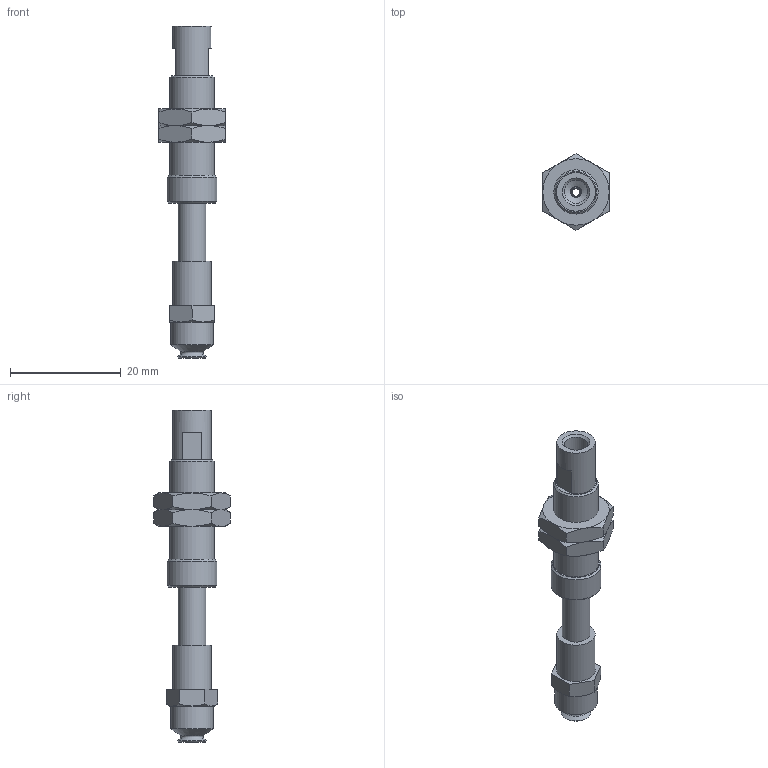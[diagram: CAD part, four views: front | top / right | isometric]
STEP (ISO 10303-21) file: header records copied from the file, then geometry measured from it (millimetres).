
FILE_DESCRIPTION(('STEP AP203'),'1');
FILE_NAME('-PE.stp','2025-04-11T07:49:40',(' '),(' '),'Spatial InterOp 3D',' ',' ');
FILE_SCHEMA(('CONFIG_CONTROL_DESIGN'));
Length unit declared in the file: millimetre
Products named in the file (8): BNABPFTS-5A-10-※-PE; ZIG; BODY; NUT; TN-PS-10-M5; Setting screws-TN-PS-10-M5; BPFG-5A-※
Assembly tree (7 placements, depth 3):
  BNABPFTS-5A-10-※-PE
    ZIG
    BODY
    NUT
    NUT
    TN-PS-10-M5
      Setting screws-TN-PS-10-M5
    BPFG-5A-※
Bounding box: 12 x 13.86 x 60 mm (x, y, z)
Volume: 2579.4 mm3; surface area: 3824.7 mm2
Topology: 6 solids, 6 shells, 136 faces, 284 edges, 171 vertices
Faces by surface type: plane 57, cone 47, cylinder 23, torus 8, bspline 1
Full cylindrical faces by diameter (mm): 1.4 x1, 2 x2, 3.9 x1, 4 x4, 4.2 x2, 5 x3, 5.2 x1, 6 x2, 7 x2, 7.25 x2, 7.7 x1, 8 x1, 9 x1
Entity records: 3741 total; most frequent: CARTESIAN_POINT 738, DIRECTION 558, ORIENTED_EDGE 446, AXIS2_PLACEMENT_3D 251, EDGE_CURVE 223, EDGE_LOOP 208, FACE_OUTER_BOUND 168, VERTEX_POINT 159
